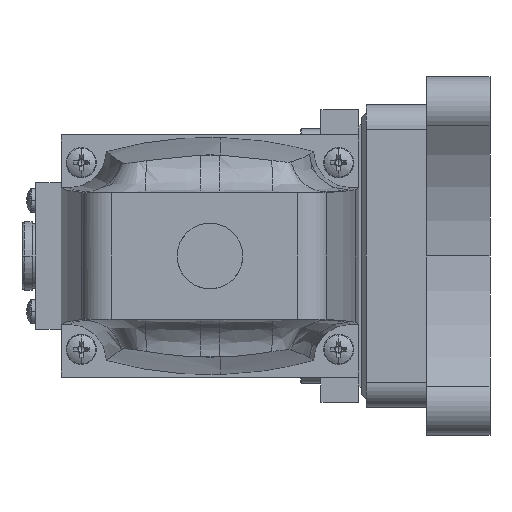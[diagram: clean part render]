
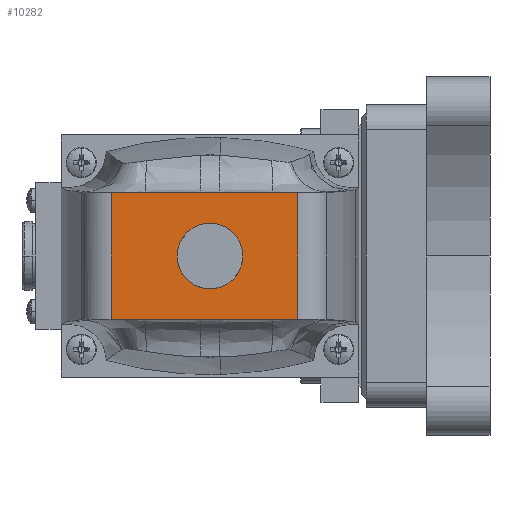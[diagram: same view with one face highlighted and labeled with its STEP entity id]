
A CAD part, left-side view. The second image highlights one B-rep face of the part: STEP entity #10282.
In plain terms, the highlighted planar face has unit normal (-1, 0, 0) as drawn and (0, 1, 0) by its records, which use the part's own axes.
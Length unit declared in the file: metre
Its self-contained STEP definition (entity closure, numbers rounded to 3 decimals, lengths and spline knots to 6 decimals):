
#245 = CARTESIAN_POINT ( 'NONE',  ( 0.011359, 0.2419, -0.002547 ) ) ;
#699 = CARTESIAN_POINT ( 'NONE',  ( -0.025001, 0.2419, -0.030787 ) ) ;
#1132 = VERTEX_POINT ( 'NONE', #9642 ) ;
#1152 = CARTESIAN_POINT ( 'NONE',  ( -0.012662, 0.2419, 0.007403 ) ) ;
#1344 = LINE ( 'NONE', #6133, #13910 ) ;
#1407 = CARTESIAN_POINT ( 'NONE',  ( 0., 0.2419, 0.017 ) ) ;
#1467 = CARTESIAN_POINT ( 'NONE',  ( 0.007989, 0.2419, -0.006396 ) ) ;
#1734 = ORIENTED_EDGE ( 'NONE', *, *, #11821, .F. ) ;
#1933 = VECTOR ( 'NONE', #14573, 1. ) ;
#2149 = ORIENTED_EDGE ( 'NONE', *, *, #15578, .T. ) ;
#2374 = CARTESIAN_POINT ( 'NONE',  ( -0.010396, 0.2419, 0.011989 ) ) ;
#2656 = CARTESIAN_POINT ( 'NONE',  ( 0.003403, 0.2419, 0.016662 ) ) ;
#2709 = CARTESIAN_POINT ( 'NONE',  ( 0.003403, 0.2419, -0.008662 ) ) ;
#3610 = B_SPLINE_CURVE_WITH_KNOTS ( 'NONE', 3,
 ( #7131, #8345, #12009, #4794, #13245, #5990, #14508, #7191, #15742, #8400, #1152, #9637, #2374, #10861, #3637, #12059, #4836, #13309 ),
 .UNSPECIFIED., .F., .F.,
 ( 4, 2, 2, 2, 2, 2, 2, 2, 4 ),
 ( 0., 0.125, 0.25, 0.375, 0.5, 0.625, 0.75, 0.875, 1. ),
 .UNSPECIFIED. ) ;
#3637 = CARTESIAN_POINT ( 'NONE',  ( -0.006547, 0.2419, 0.015359 ) ) ;
#3682 = DIRECTION ( 'NONE',  ( 0., -1., 0. ) ) ;
#3816 = CARTESIAN_POINT ( 'NONE',  ( 0., 0.2419, 0.017 ) ) ;
#3897 = CARTESIAN_POINT ( 'NONE',  ( 0.007989, 0.2419, 0.014396 ) ) ;
#3942 = CARTESIAN_POINT ( 'NONE',  ( 0., 0.2419, -0.009 ) ) ;
#4299 = FACE_BOUND ( 'NONE', #13487, .T. ) ;
#4794 = CARTESIAN_POINT ( 'NONE',  ( -0.006547, 0.2419, -0.007359 ) ) ;
#4836 = CARTESIAN_POINT ( 'NONE',  ( -0.001702, 0.2419, 0.017 ) ) ;
#5103 = CARTESIAN_POINT ( 'NONE',  ( 0.011359, 0.2419, 0.010547 ) ) ;
#5151 = ORIENTED_EDGE ( 'NONE', *, *, #11528, .F. ) ;
#5543 = LINE ( 'NONE', #6061, #1933 ) ;
#5990 = CARTESIAN_POINT ( 'NONE',  ( -0.010396, 0.2419, -0.003989 ) ) ;
#6061 = CARTESIAN_POINT ( 'NONE',  ( 0., 0.2419, -0.030787 ) ) ;
#6133 = CARTESIAN_POINT ( 'NONE',  ( 0.025001, 0.2419, 0.004 ) ) ;
#6308 = CARTESIAN_POINT ( 'NONE',  ( 0.013, 0.2419, 0.005702 ) ) ;
#6679 = DIRECTION ( 'NONE',  ( 0., 0., -1. ) ) ;
#7131 = CARTESIAN_POINT ( 'NONE',  ( 0., 0.2419, -0.009 ) ) ;
#7191 = CARTESIAN_POINT ( 'NONE',  ( -0.012662, 0.2419, 0.000597 ) ) ;
#7500 = CARTESIAN_POINT ( 'NONE',  ( 0.012662, 0.2419, 0.000597 ) ) ;
#7975 = EDGE_CURVE ( 'NONE', #10798, #11315, #9889, .T. ) ;
#8042 = CARTESIAN_POINT ( 'NONE',  ( 0., 0.2419, 0.043094 ) ) ;
#8080 = EDGE_CURVE ( 'NONE', #11330, #9660, #5543, .T. ) ;
#8129 = EDGE_LOOP ( 'NONE', ( #9430, #2149, #8671, #5151 ) ) ;
#8244 = DIRECTION ( 'NONE',  ( -1., 0., 0. ) ) ;
#8345 = CARTESIAN_POINT ( 'NONE',  ( -0.001702, 0.2419, -0.009 ) ) ;
#8400 = CARTESIAN_POINT ( 'NONE',  ( -0.013, 0.2419, 0.005702 ) ) ;
#8671 = ORIENTED_EDGE ( 'NONE', *, *, #8080, .T. ) ;
#8722 = CARTESIAN_POINT ( 'NONE',  ( 0.010396, 0.2419, -0.003989 ) ) ;
#9071 = ORIENTED_EDGE ( 'NONE', *, *, #10395, .F. ) ;
#9135 = AXIS2_PLACEMENT_3D ( 'NONE', #14558, #3682, #12109 ) ;
#9430 = ORIENTED_EDGE ( 'NONE', *, *, #7975, .F. ) ;
#9504 = VECTOR ( 'NONE', #8244, 1. ) ;
#9637 = CARTESIAN_POINT ( 'NONE',  ( -0.011359, 0.2419, 0.010547 ) ) ;
#9642 = CARTESIAN_POINT ( 'NONE',  ( 0., 0.2419, -0.009 ) ) ;
#9660 = VERTEX_POINT ( 'NONE', #699 ) ;
#9889 = LINE ( 'NONE', #8042, #9504 ) ;
#9956 = CARTESIAN_POINT ( 'NONE',  ( 0.006547, 0.2419, -0.007359 ) ) ;
#9962 = LINE ( 'NONE', #10299, #15703 ) ;
#10282 = ADVANCED_FACE ( 'NONE', ( #4299, #13976 ), #10905, .F. ) ;
#10299 = CARTESIAN_POINT ( 'NONE',  ( -0.025001, 0.2419, 0.006154 ) ) ;
#10395 = EDGE_CURVE ( 'NONE', #14241, #1132, #13374, .T. ) ;
#10798 = VERTEX_POINT ( 'NONE', #14750 ) ;
#10861 = CARTESIAN_POINT ( 'NONE',  ( -0.007989, 0.2419, 0.014396 ) ) ;
#10905 = PLANE ( 'NONE',  #9135 ) ;
#11006 = DIRECTION ( 'NONE',  ( 0., 0., -1. ) ) ;
#11113 = CARTESIAN_POINT ( 'NONE',  ( 0.006547, 0.2419, 0.015359 ) ) ;
#11172 = CARTESIAN_POINT ( 'NONE',  ( 0.001702, 0.2419, -0.009 ) ) ;
#11315 = VERTEX_POINT ( 'NONE', #12406 ) ;
#11330 = VERTEX_POINT ( 'NONE', #13664 ) ;
#11528 = EDGE_CURVE ( 'NONE', #11315, #9660, #9962, .T. ) ;
#11821 = EDGE_CURVE ( 'NONE', #1132, #14241, #3610, .T. ) ;
#12009 = CARTESIAN_POINT ( 'NONE',  ( -0.003403, 0.2419, -0.008662 ) ) ;
#12059 = CARTESIAN_POINT ( 'NONE',  ( -0.003403, 0.2419, 0.016662 ) ) ;
#12109 = DIRECTION ( 'NONE',  ( 0., 0., -1. ) ) ;
#12333 = CARTESIAN_POINT ( 'NONE',  ( 0.010396, 0.2419, 0.011989 ) ) ;
#12406 = CARTESIAN_POINT ( 'NONE',  ( -0.025001, 0.2419, 0.043094 ) ) ;
#13245 = CARTESIAN_POINT ( 'NONE',  ( -0.007989, 0.2419, -0.006396 ) ) ;
#13309 = CARTESIAN_POINT ( 'NONE',  ( 0., 0.2419, 0.017 ) ) ;
#13374 = B_SPLINE_CURVE_WITH_KNOTS ( 'NONE', 3,
 ( #1407, #13528, #2656, #11113, #3897, #12333, #5103, #13582, #6308, #14831, #7500, #245, #8722, #1467, #9956, #2709, #11172, #3942 ),
 .UNSPECIFIED., .F., .F.,
 ( 4, 2, 2, 2, 2, 2, 2, 2, 4 ),
 ( 0., 0.125, 0.25, 0.375, 0.5, 0.625, 0.75, 0.875, 1. ),
 .UNSPECIFIED. ) ;
#13487 = EDGE_LOOP ( 'NONE', ( #9071, #1734 ) ) ;
#13528 = CARTESIAN_POINT ( 'NONE',  ( 0.001702, 0.2419, 0.017 ) ) ;
#13582 = CARTESIAN_POINT ( 'NONE',  ( 0.012662, 0.2419, 0.007403 ) ) ;
#13664 = CARTESIAN_POINT ( 'NONE',  ( 0.025001, 0.2419, -0.030787 ) ) ;
#13910 = VECTOR ( 'NONE', #11006, 1. ) ;
#13976 = FACE_OUTER_BOUND ( 'NONE', #8129, .T. ) ;
#14241 = VERTEX_POINT ( 'NONE', #3816 ) ;
#14508 = CARTESIAN_POINT ( 'NONE',  ( -0.011359, 0.2419, -0.002547 ) ) ;
#14558 = CARTESIAN_POINT ( 'NONE',  ( -0.025001, 0.2419, 0.043094 ) ) ;
#14573 = DIRECTION ( 'NONE',  ( -1., 0., 0. ) ) ;
#14750 = CARTESIAN_POINT ( 'NONE',  ( 0.025001, 0.2419, 0.043094 ) ) ;
#14831 = CARTESIAN_POINT ( 'NONE',  ( 0.013, 0.2419, 0.002298 ) ) ;
#15578 = EDGE_CURVE ( 'NONE', #10798, #11330, #1344, .T. ) ;
#15703 = VECTOR ( 'NONE', #6679, 1. ) ;
#15742 = CARTESIAN_POINT ( 'NONE',  ( -0.013, 0.2419, 0.002298 ) ) ;
